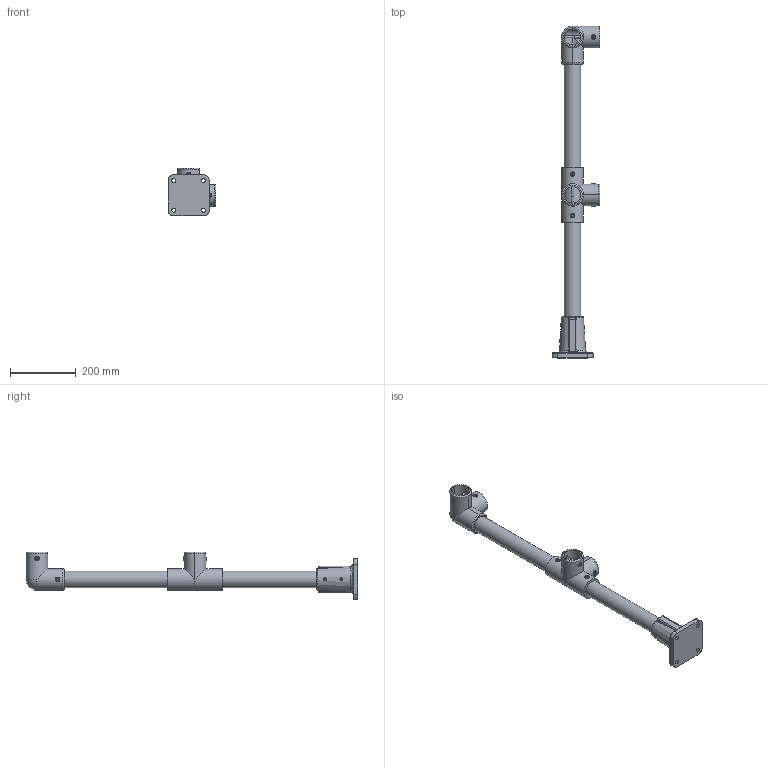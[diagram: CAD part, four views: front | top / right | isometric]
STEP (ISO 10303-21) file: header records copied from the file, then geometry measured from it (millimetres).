
FILE_DESCRIPTION(/* description */ (''),/* implementation_level */ '2;1');
FILE_NAME(/* name */ 'W:\8 Drafting Support\3 Product Drawings\Handrails\3D Models\MHST-04\MHST-04.stp',/* time_stamp */ '2025-03-11T12:10:44+10:00',/* author */ ('Callum'),/* organization */ (''),/* preprocessor_version */ 'ST-DEVELOPER v18.1',/* originating_system */ 'Autodesk Inventor 2022',/* authorisation */ '');
FILE_SCHEMA (('AUTOMOTIVE_DESIGN { 1 0 10303 214 3 1 1 }'));
Length unit declared in the file: millimetre
Products named in the file (15): MHST-04; MHST-04 BASE SKETCH; MHST-04-SN; MH1-4-BASE_PH01; MH1-4-BASE; G810-10022; MH4-CORNER; MH4-Corner-Y; MH3-CORNER-Y; MH3-Corner-Y_1; MH3-Corner Part B; MH4-Corner_1; MHR-M6-304; M6x8 Barrel Nut; M6x50 Soc Head Screw
Assembly tree (21 placements, depth 4):
  MHST-04
    MHST-04 BASE SKETCH
    MHST-04-SN
    MH1-4-BASE_PH01
      MH1-4-BASE
      G810-10022  x2
    MH4-CORNER
      MH4-Corner-Y
      MHR-M6-304  x4
        M6x8 Barrel Nut
        M6x50 Soc Head Screw
    MH3-CORNER-Y
      MH3-Corner-Y_1
        MH3-Corner Part B
        MH4-Corner_1
      MHR-M6-304  x3
        M6x8 Barrel Nut
        M6x50 Soc Head Screw
Bounding box: 145.5 x 1008 x 145.5 mm (x, y, z)
Volume: 1852982.7 mm3; surface area: 552953.7 mm2
Topology: 22 solids, 22 shells, 691 faces, 1695 edges, 1116 vertices
Faces by surface type: plane 387, cylinder 129, bspline 84, torus 43, cone 42, sphere 6
Full cylindrical faces by diameter (mm): 3.75 x2, 4.75 x2, 5 x7, 6 x7, 8 x21, 9.3 x2, 12 x4, 14 x14, 40 x1, 50 x4, 66 x3
Entity records: 19817 total; most frequent: CARTESIAN_POINT 7931, ORIENTED_EDGE 2444, DIRECTION 2145, EDGE_CURVE 1222, VERTEX_POINT 799, AXIS2_PLACEMENT_3D 728, LINE 689, VECTOR 689
